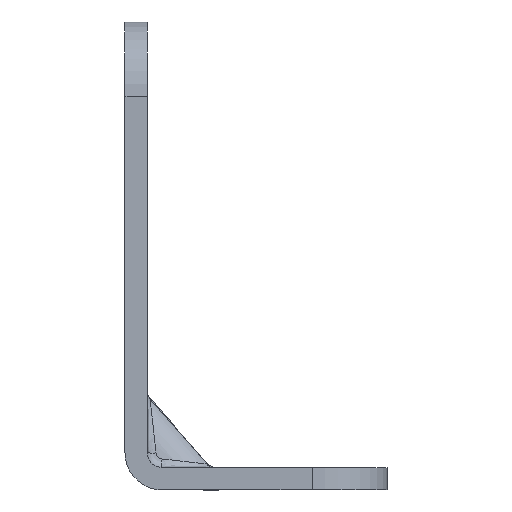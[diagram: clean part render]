
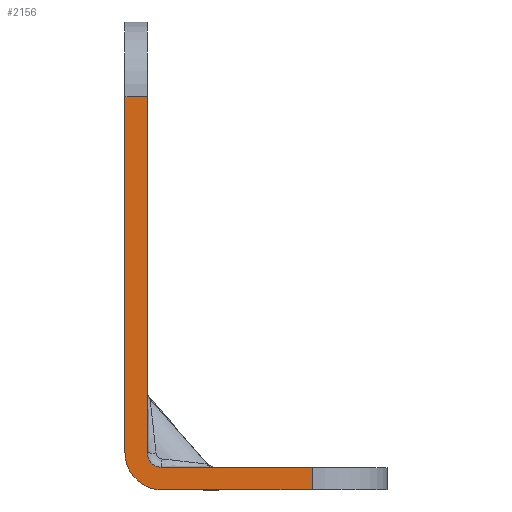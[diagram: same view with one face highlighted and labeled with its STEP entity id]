
A CAD part, front view. The second image highlights one B-rep face of the part: STEP entity #2156.
In plain terms, the highlighted planar face has unit normal (0, -1, 0).
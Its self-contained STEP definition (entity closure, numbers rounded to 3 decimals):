
#33 = VECTOR ( 'NONE', #1185, 1000. ) ;
#41 = CARTESIAN_POINT ( 'NONE',  ( -5.045, -6.386, 33.7 ) ) ;
#51 = LINE ( 'NONE', #2570, #1533 ) ;
#57 = CARTESIAN_POINT ( 'NONE',  ( -5.045, -6.386, 32.5 ) ) ;
#64 = LINE ( 'NONE', #560, #33 ) ;
#66 = ORIENTED_EDGE ( 'NONE', *, *, #1261, .T. ) ;
#91 = DIRECTION ( 'NONE',  ( 1., 0., 0. ) ) ;
#140 = DIRECTION ( 'NONE',  ( 1., 0., 0. ) ) ;
#174 = VERTEX_POINT ( 'NONE', #1806 ) ;
#282 = CARTESIAN_POINT ( 'NONE',  ( -5.045, -6.386, 33.7 ) ) ;
#350 = VECTOR ( 'NONE', #140, 1000. ) ;
#456 = DIRECTION ( 'NONE',  ( 0., 0., -1. ) ) ;
#560 = CARTESIAN_POINT ( 'NONE',  ( -13.845, -6.386, 53.5 ) ) ;
#650 = VECTOR ( 'NONE', #91, 1000. ) ;
#669 = VERTEX_POINT ( 'NONE', #57 ) ;
#693 = VERTEX_POINT ( 'NONE', #41 ) ;
#713 = VERTEX_POINT ( 'NONE', #1120 ) ;
#717 = VECTOR ( 'NONE', #2532, 1000. ) ;
#758 = DIRECTION ( 'NONE',  ( 0., 0., -1. ) ) ;
#852 = CARTESIAN_POINT ( 'NONE',  ( -15.045, -6.386, 33.7 ) ) ;
#873 = EDGE_CURVE ( 'NONE', #2738, #669, #1551, .T. ) ;
#907 = CIRCLE ( 'NONE', #2509, 0.8 ) ;
#923 = EDGE_CURVE ( 'NONE', #713, #1079, #2796, .T. ) ;
#991 = CARTESIAN_POINT ( 'NONE',  ( -5.045, -6.386, 32.5 ) ) ;
#999 = ORIENTED_EDGE ( 'NONE', *, *, #2400, .F. ) ;
#1079 = VERTEX_POINT ( 'NONE', #2228 ) ;
#1089 = CARTESIAN_POINT ( 'NONE',  ( -13.845, -6.386, 53.5 ) ) ;
#1120 = CARTESIAN_POINT ( 'NONE',  ( -15.045, -6.386, 53.5 ) ) ;
#1148 = ORIENTED_EDGE ( 'NONE', *, *, #1594, .F. ) ;
#1185 = DIRECTION ( 'NONE',  ( -1., 0., 0. ) ) ;
#1211 = AXIS2_PLACEMENT_3D ( 'NONE', #1220, #2754, #1458 ) ;
#1220 = CARTESIAN_POINT ( 'NONE',  ( -13.045, -6.386, 34.5 ) ) ;
#1247 = EDGE_CURVE ( 'NONE', #2633, #713, #64, .T. ) ;
#1261 = EDGE_CURVE ( 'NONE', #2367, #174, #907, .T. ) ;
#1264 = DIRECTION ( 'NONE',  ( 0., 1., 0. ) ) ;
#1322 = EDGE_CURVE ( 'NONE', #1079, #2738, #2344, .T. ) ;
#1335 = EDGE_LOOP ( 'NONE', ( #1656, #2647, #1713, #1148, #999, #66, #1337, #1505 ) ) ;
#1337 = ORIENTED_EDGE ( 'NONE', *, *, #2602, .T. ) ;
#1400 = FACE_OUTER_BOUND ( 'NONE', #1335, .T. ) ;
#1458 = DIRECTION ( 'NONE',  ( 0., 0., -1. ) ) ;
#1505 = ORIENTED_EDGE ( 'NONE', *, *, #1247, .T. ) ;
#1533 = VECTOR ( 'NONE', #1959, 1000. ) ;
#1540 = CARTESIAN_POINT ( 'NONE',  ( -13.045, -6.386, 32.5 ) ) ;
#1551 = LINE ( 'NONE', #991, #350 ) ;
#1594 = EDGE_CURVE ( 'NONE', #693, #669, #1845, .T. ) ;
#1656 = ORIENTED_EDGE ( 'NONE', *, *, #923, .T. ) ;
#1713 = ORIENTED_EDGE ( 'NONE', *, *, #873, .T. ) ;
#1739 = CARTESIAN_POINT ( 'NONE',  ( -5.045, -6.386, 33.7 ) ) ;
#1793 = CARTESIAN_POINT ( 'NONE',  ( -13.045, -6.386, 33.7 ) ) ;
#1796 = LINE ( 'NONE', #2676, #650 ) ;
#1806 = CARTESIAN_POINT ( 'NONE',  ( -13.845, -6.386, 34.5 ) ) ;
#1845 = LINE ( 'NONE', #282, #2687 ) ;
#1959 = DIRECTION ( 'NONE',  ( 0., 0., 1. ) ) ;
#2070 = AXIS2_PLACEMENT_3D ( 'NONE', #1739, #1264, #456 ) ;
#2156 = ADVANCED_FACE ( 'NONE', ( #1400 ), #2517, .F. ) ;
#2191 = DIRECTION ( 'NONE',  ( 0., 0., -1. ) ) ;
#2228 = CARTESIAN_POINT ( 'NONE',  ( -15.045, -6.386, 34.5 ) ) ;
#2236 = DIRECTION ( 'NONE',  ( 0., 1., 0. ) ) ;
#2261 = CARTESIAN_POINT ( 'NONE',  ( -13.045, -6.386, 34.5 ) ) ;
#2344 = CIRCLE ( 'NONE', #1211, 2. ) ;
#2367 = VERTEX_POINT ( 'NONE', #1793 ) ;
#2400 = EDGE_CURVE ( 'NONE', #2367, #693, #1796, .T. ) ;
#2509 = AXIS2_PLACEMENT_3D ( 'NONE', #2261, #2236, #758 ) ;
#2517 = PLANE ( 'NONE',  #2070 ) ;
#2532 = DIRECTION ( 'NONE',  ( 0., 0., -1. ) ) ;
#2570 = CARTESIAN_POINT ( 'NONE',  ( -13.845, -6.386, 53.5 ) ) ;
#2602 = EDGE_CURVE ( 'NONE', #174, #2633, #51, .T. ) ;
#2633 = VERTEX_POINT ( 'NONE', #1089 ) ;
#2647 = ORIENTED_EDGE ( 'NONE', *, *, #1322, .T. ) ;
#2676 = CARTESIAN_POINT ( 'NONE',  ( -5.045, -6.386, 33.7 ) ) ;
#2687 = VECTOR ( 'NONE', #2191, 1000. ) ;
#2738 = VERTEX_POINT ( 'NONE', #1540 ) ;
#2754 = DIRECTION ( 'NONE',  ( 0., -1., 0. ) ) ;
#2796 = LINE ( 'NONE', #852, #717 ) ;
